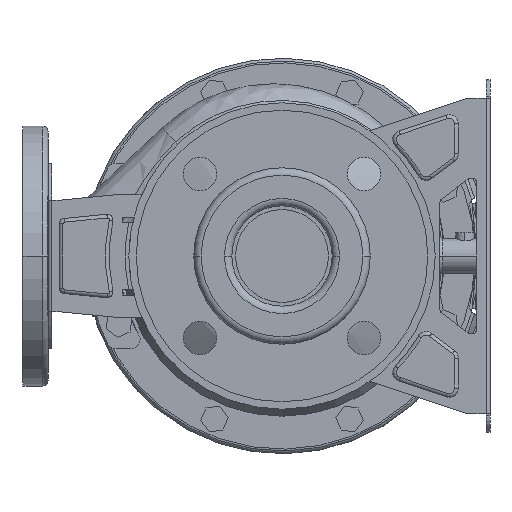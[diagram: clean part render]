
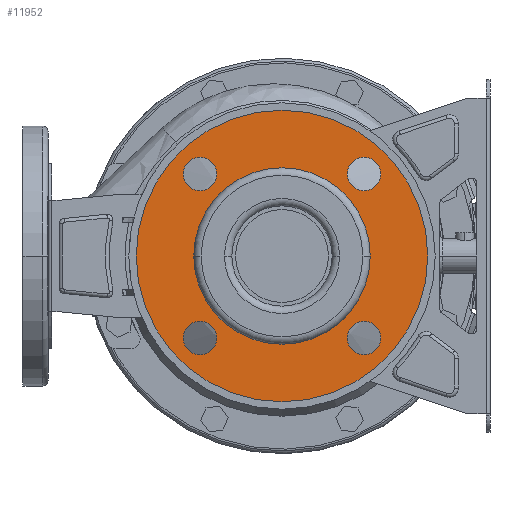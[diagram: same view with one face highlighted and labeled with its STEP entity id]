
A CAD part, left-side view. The second image highlights one B-rep face of the part: STEP entity #11952.
In plain terms, the highlighted planar face has unit normal (-1, 0, 0).
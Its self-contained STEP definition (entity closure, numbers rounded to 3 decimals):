
#11285=CARTESIAN_POINT('',(12.,0.,0.));
#11286=DIRECTION('',(-1.,0.,0.));
#11287=DIRECTION('',(0.,1.,0.));
#11288=AXIS2_PLACEMENT_3D('',#11285,#11286,#11287);
#11293=CARTESIAN_POINT('',(12.,0.,0.));
#11294=DIRECTION('',(1.,0.,0.));
#11295=DIRECTION('',(0.,1.,0.));
#11296=AXIS2_PLACEMENT_3D('',#11293,#11294,#11295);
#11301=CARTESIAN_POINT('',(12.,-44.194,44.194));
#11302=DIRECTION('',(1.,0.,0.));
#11303=DIRECTION('',(0.,1.,0.));
#11304=AXIS2_PLACEMENT_3D('',#11301,#11302,#11303);
#11309=CARTESIAN_POINT('',(12.,-44.194,44.194));
#11310=DIRECTION('',(1.,0.,0.));
#11311=DIRECTION('',(0.,-1.,0.));
#11312=AXIS2_PLACEMENT_3D('',#11309,#11310,#11311);
#11317=CARTESIAN_POINT('',(12.,-44.194,-44.194));
#11318=DIRECTION('',(1.,0.,0.));
#11319=DIRECTION('',(0.,0.,1.));
#11320=AXIS2_PLACEMENT_3D('',#11317,#11318,#11319);
#11325=CARTESIAN_POINT('',(12.,-44.194,-44.194));
#11326=DIRECTION('',(1.,0.,0.));
#11327=DIRECTION('',(0.,0.,-1.));
#11328=AXIS2_PLACEMENT_3D('',#11325,#11326,#11327);
#11333=CARTESIAN_POINT('',(12.,44.194,-44.194));
#11334=DIRECTION('',(1.,0.,0.));
#11335=DIRECTION('',(0.,-1.,0.));
#11336=AXIS2_PLACEMENT_3D('',#11333,#11334,#11335);
#11341=CARTESIAN_POINT('',(12.,44.194,-44.194));
#11342=DIRECTION('',(1.,0.,0.));
#11343=DIRECTION('',(0.,1.,0.));
#11344=AXIS2_PLACEMENT_3D('',#11341,#11342,#11343);
#11349=CARTESIAN_POINT('',(12.,44.194,44.194));
#11350=DIRECTION('',(1.,0.,0.));
#11351=DIRECTION('',(0.,0.,-1.));
#11352=AXIS2_PLACEMENT_3D('',#11349,#11350,#11351);
#11357=CARTESIAN_POINT('',(12.,44.194,44.194));
#11358=DIRECTION('',(1.,0.,0.));
#11359=DIRECTION('',(0.,0.,1.));
#11360=AXIS2_PLACEMENT_3D('',#11357,#11358,#11359);
#11365=CARTESIAN_POINT('',(12.,0.,0.));
#11366=DIRECTION('',(1.,0.,0.));
#11367=DIRECTION('',(0.,1.,0.));
#11368=AXIS2_PLACEMENT_3D('',#11365,#11366,#11367);
#11387=CARTESIAN_POINT('',(12.,0.,0.));
#11388=DIRECTION('',(-1.,0.,0.));
#11389=DIRECTION('',(0.,1.,0.));
#11390=AXIS2_PLACEMENT_3D('',#11387,#11388,#11389);
#11552=CARTESIAN_POINT('',(12.,78.5,0.));
#11554=VERTEX_POINT('',#11552);
#11555=CARTESIAN_POINT('',(12.,47.5,0.));
#11557=VERTEX_POINT('',#11555);
#11584=CARTESIAN_POINT('',(12.,-78.5,0.));
#11586=VERTEX_POINT('',#11584);
#11587=CARTESIAN_POINT('',(12.,-47.5,0.));
#11589=VERTEX_POINT('',#11587);
#11599=CARTESIAN_POINT('',(12.,-35.194,44.194));
#11600=CARTESIAN_POINT('',(12.,-53.194,44.194));
#11601=VERTEX_POINT('',#11599);
#11602=VERTEX_POINT('',#11600);
#11607=CARTESIAN_POINT('',(12.,-44.194,-35.194));
#11608=CARTESIAN_POINT('',(12.,-44.194,-53.194));
#11609=VERTEX_POINT('',#11607);
#11610=VERTEX_POINT('',#11608);
#11615=CARTESIAN_POINT('',(12.,35.194,-44.194));
#11616=CARTESIAN_POINT('',(12.,53.194,-44.194));
#11617=VERTEX_POINT('',#11615);
#11618=VERTEX_POINT('',#11616);
#11623=CARTESIAN_POINT('',(12.,44.194,35.194));
#11624=CARTESIAN_POINT('',(12.,44.194,53.194));
#11625=VERTEX_POINT('',#11623);
#11626=VERTEX_POINT('',#11624);
#11913=CARTESIAN_POINT('',(12.,0.,0.));
#11914=DIRECTION('',(1.,0.,0.));
#11915=DIRECTION('',(0.,-1.,0.));
#11916=AXIS2_PLACEMENT_3D('',#11913,#11914,#11915);
#11917=PLANE('',#11916);
#11918=ORIENTED_EDGE('',*,*,#11906,.F.);
#11919=ORIENTED_EDGE('',*,*,#11895,.T.);
#11920=EDGE_LOOP('',(#11918,#11919));
#11921=FACE_OUTER_BOUND('',#11920,.F.);
#11923=ORIENTED_EDGE('',*,*,#11922,.F.);
#11925=ORIENTED_EDGE('',*,*,#11924,.T.);
#11926=EDGE_LOOP('',(#11923,#11925));
#11927=FACE_BOUND('',#11926,.F.);
#11929=ORIENTED_EDGE('',*,*,#11928,.F.);
#11931=ORIENTED_EDGE('',*,*,#11930,.F.);
#11932=EDGE_LOOP('',(#11929,#11931));
#11933=FACE_BOUND('',#11932,.F.);
#11935=ORIENTED_EDGE('',*,*,#11934,.F.);
#11937=ORIENTED_EDGE('',*,*,#11936,.F.);
#11938=EDGE_LOOP('',(#11935,#11937));
#11939=FACE_BOUND('',#11938,.F.);
#11941=ORIENTED_EDGE('',*,*,#11940,.F.);
#11943=ORIENTED_EDGE('',*,*,#11942,.F.);
#11944=EDGE_LOOP('',(#11941,#11943));
#11945=FACE_BOUND('',#11944,.F.);
#11947=ORIENTED_EDGE('',*,*,#11946,.F.);
#11949=ORIENTED_EDGE('',*,*,#11948,.F.);
#11950=EDGE_LOOP('',(#11947,#11949));
#11951=FACE_BOUND('',#11950,.F.);
#11289=CIRCLE('',#11288,78.5);
#11297=CIRCLE('',#11296,78.5);
#11305=CIRCLE('',#11304,9.);
#11313=CIRCLE('',#11312,9.);
#11321=CIRCLE('',#11320,9.);
#11329=CIRCLE('',#11328,9.);
#11337=CIRCLE('',#11336,9.);
#11345=CIRCLE('',#11344,9.);
#11353=CIRCLE('',#11352,9.);
#11361=CIRCLE('',#11360,9.);
#11369=CIRCLE('',#11368,47.5);
#11391=CIRCLE('',#11390,47.5);
#11895=EDGE_CURVE('',#11554,#11586,#11297,.T.);
#11906=EDGE_CURVE('',#11554,#11586,#11289,.T.);
#11922=EDGE_CURVE('',#11557,#11589,#11369,.T.);
#11924=EDGE_CURVE('',#11557,#11589,#11391,.T.);
#11928=EDGE_CURVE('',#11601,#11602,#11305,.T.);
#11930=EDGE_CURVE('',#11602,#11601,#11313,.T.);
#11934=EDGE_CURVE('',#11609,#11610,#11321,.T.);
#11936=EDGE_CURVE('',#11610,#11609,#11329,.T.);
#11940=EDGE_CURVE('',#11617,#11618,#11337,.T.);
#11942=EDGE_CURVE('',#11618,#11617,#11345,.T.);
#11946=EDGE_CURVE('',#11625,#11626,#11353,.T.);
#11948=EDGE_CURVE('',#11626,#11625,#11361,.T.);
#11952=ADVANCED_FACE('',(#11921,#11927,#11933,#11939,#11945,#11951),#11917,.F.);
